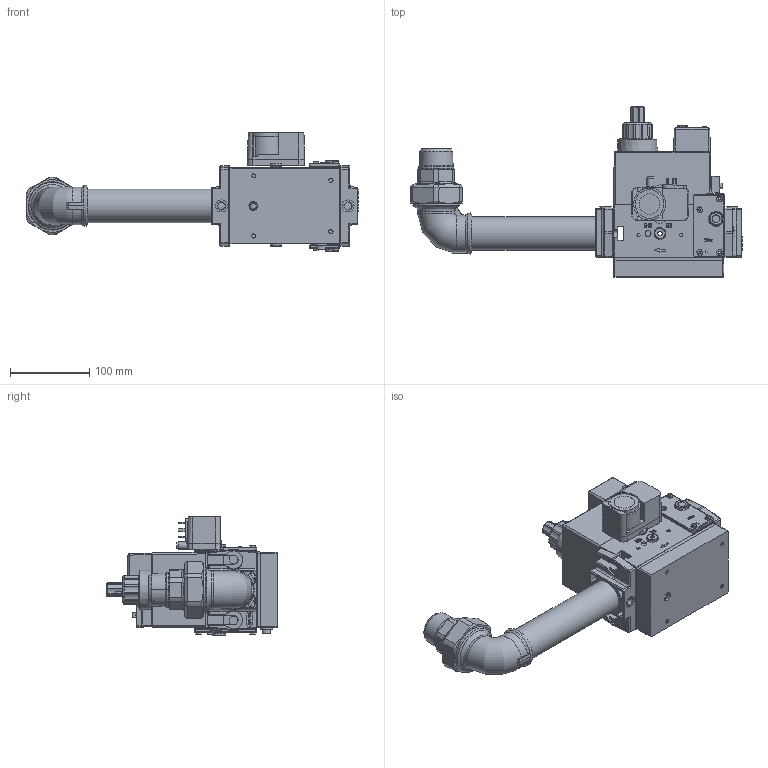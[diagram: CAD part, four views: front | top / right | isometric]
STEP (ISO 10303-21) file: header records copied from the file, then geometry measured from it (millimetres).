
FILE_DESCRIPTION (( 'STEP AP214' ), '1' );
FILE_NAME ('19990556.STEP', '2021-09-15T09:20:46', ( '' ), ( '' ), 'SwSTEP 2.0', 'SolidWorks 2018', '' );
FILE_SCHEMA (( 'AUTOMOTIVE_DESIGN' ));
Length unit declared in the file: millimetre
Products named in the file (1): 19990556
Bounding box: 419.57 x 215 x 150.2 mm (x, y, z)
Surface area: 227500.8 mm2 (no closed solid volume)
Topology: 0 solids, 795 shells, 1412 faces, 6696 edges, 5937 vertices
Faces by surface type: plane 599, cylinder 371, bspline 291, cone 94, torus 57
Full cylindrical faces by diameter (mm): 0.7 x1, 1.5 x1, 2 x2, 2.459 x1, 2.5 x2, 5.391 x4, 7 x10, 7.3 x1, 8 x9, 9 x1, 10.6 x1, 11.359 x1, 14 x6, 15 x9, 15.8 x1, 26 x1, 36.15 x1, 42.4 x1, 52.7 x1, 53 x1, 59.61 x1
Entity records: 131615 total; most frequent: CARTESIAN_POINT 69367, ORIENTED_EDGE 7797, DIRECTION 7580, EDGE_CURVE 6508, VERTEX_POINT 5898, LINE 3360, VECTOR 3360, AXIS2_PLACEMENT_3D 2110
